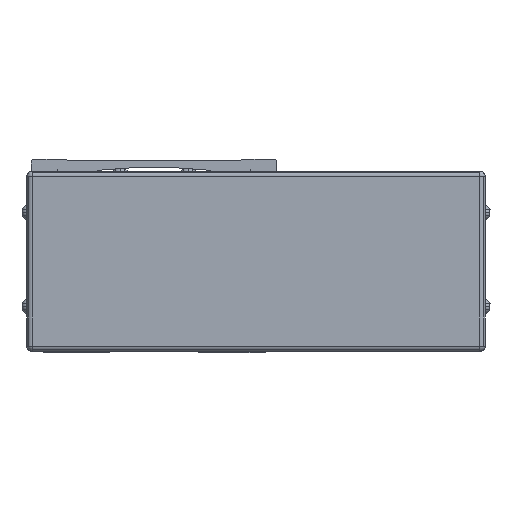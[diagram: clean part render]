
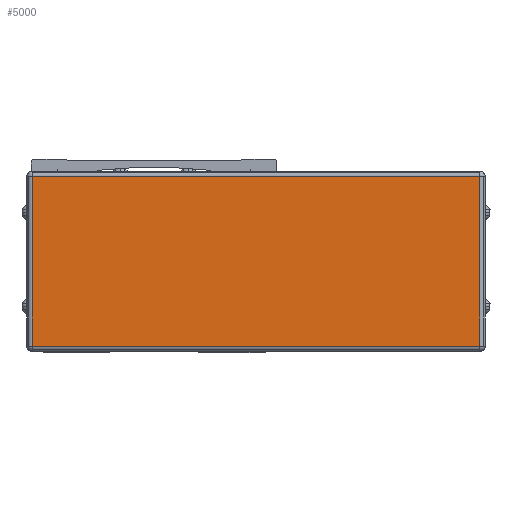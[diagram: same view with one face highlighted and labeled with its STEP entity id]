
A CAD part, front view. The second image highlights one B-rep face of the part: STEP entity #5000.
In plain terms, the highlighted planar face has unit normal (0, -1, 0).
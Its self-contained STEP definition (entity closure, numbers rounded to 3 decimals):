
#5000=ADVANCED_FACE('',(#11336),#11337,.T.);
#11336=FACE_OUTER_BOUND('',#20032,.T.);
#11337=PLANE('',#20033);
#20032=EDGE_LOOP('',(#35347,#35348,#35349,#35350));
#20033=AXIS2_PLACEMENT_3D('',#35351,#35352,#35353);
#35347=ORIENTED_EDGE('',*,*,#53788,.F.);
#35348=ORIENTED_EDGE('',*,*,#53789,.F.);
#35349=ORIENTED_EDGE('',*,*,#53790,.F.);
#35350=ORIENTED_EDGE('',*,*,#51949,.F.);
#35351=CARTESIAN_POINT('',(39.,-388.778,-42.5));
#35352=DIRECTION('',(0.0,-1.0,0.0));
#35353=DIRECTION('',(1.0,0.0,0.0));
#51949=EDGE_CURVE('',#63584,#63586,#63587,.T.);
#53788=EDGE_CURVE('',#66318,#63584,#66319,.T.);
#53789=EDGE_CURVE('',#66320,#66318,#66321,.T.);
#53790=EDGE_CURVE('',#63586,#66320,#66322,.T.);
#63584=VERTEX_POINT('',#80001);
#63586=VERTEX_POINT('',#80003);
#63587=LINE('',#80004,#80005);
#66318=VERTEX_POINT('',#84067);
#66319=LINE('',#84068,#84069);
#66320=VERTEX_POINT('',#84070);
#66321=LINE('',#84071,#84072);
#66322=LINE('',#84073,#84074);
#80001=CARTESIAN_POINT('',(-46.7,-388.778,-40.5));
#80003=CARTESIAN_POINT('',(-46.7,-388.778,24.5));
#80004=CARTESIAN_POINT('',(-46.7,-388.778,-42.5));
#80005=VECTOR('',#94614,10.0);
#84067=CARTESIAN_POINT('',(124.7,-388.778,-40.5));
#84068=CARTESIAN_POINT('',(39.,-388.778,-40.5));
#84069=VECTOR('',#96887,10.0);
#84070=CARTESIAN_POINT('',(124.7,-388.778,24.5));
#84071=CARTESIAN_POINT('',(124.7,-388.778,-42.5));
#84072=VECTOR('',#96888,10.0);
#84073=CARTESIAN_POINT('',(39.,-388.778,24.5));
#84074=VECTOR('',#96889,10.0);
#94614=DIRECTION('',(0.0,0.0,1.0));
#96887=DIRECTION('',(-1.0,0.0,0.0));
#96888=DIRECTION('',(0.0,0.0,-1.0));
#96889=DIRECTION('',(1.0,0.0,0.0));
